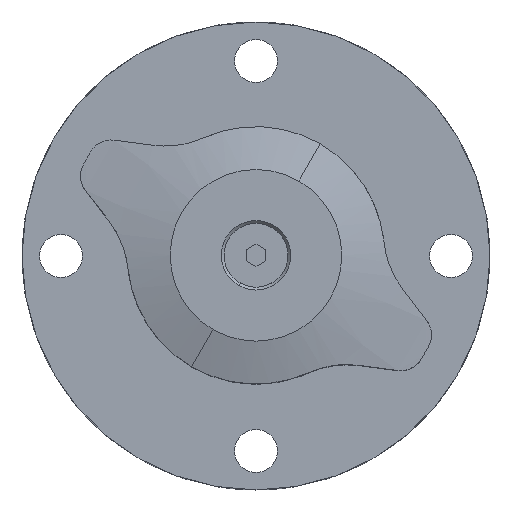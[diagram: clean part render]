
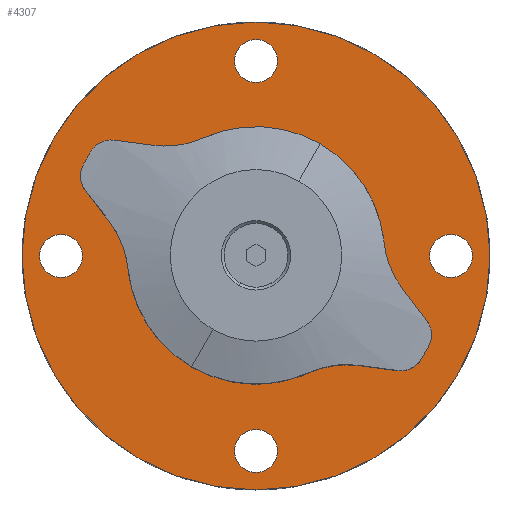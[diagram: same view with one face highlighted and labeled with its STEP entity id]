
A CAD part, top view. The second image highlights one B-rep face of the part: STEP entity #4307.
In plain terms, the highlighted planar face has unit normal (0, 0, 1) as drawn and (0, 0, -1) by its records, which use the part's own axes.
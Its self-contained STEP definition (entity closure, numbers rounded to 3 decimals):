
#18 = AXIS2_PLACEMENT_3D ( 'NONE', #767, #3589, #1552 ) ;
#28 = ORIENTED_EDGE ( 'NONE', *, *, #4676, .T. ) ;
#53 = EDGE_CURVE ( 'NONE', #120, #1119, #1252, .T. ) ;
#79 = EDGE_LOOP ( 'NONE', ( #4017, #4666 ) ) ;
#120 = VERTEX_POINT ( 'NONE', #4764 ) ;
#130 = CARTESIAN_POINT ( 'NONE',  ( 0., -25., -7.5 ) ) ;
#252 = DIRECTION ( 'NONE',  ( -1., 0., 0. ) ) ;
#405 = DIRECTION ( 'NONE',  ( 0., 0., -1. ) ) ;
#590 = CARTESIAN_POINT ( 'NONE',  ( 14., 0., -7.5 ) ) ;
#596 = EDGE_LOOP ( 'NONE', ( #2909, #28 ) ) ;
#641 = CIRCLE ( 'NONE', #730, 14. ) ;
#660 = CARTESIAN_POINT ( 'NONE',  ( 0., 0., -7.5 ) ) ;
#671 = DIRECTION ( 'NONE',  ( 0., 1., 0. ) ) ;
#684 = CARTESIAN_POINT ( 'NONE',  ( 30., 0., -7.5 ) ) ;
#730 = AXIS2_PLACEMENT_3D ( 'NONE', #4317, #405, #3229 ) ;
#752 = CARTESIAN_POINT ( 'NONE',  ( 0., 25., -7.5 ) ) ;
#757 = DIRECTION ( 'NONE',  ( 0., 0., 1. ) ) ;
#767 = CARTESIAN_POINT ( 'NONE',  ( 0., 0., -7.5 ) ) ;
#835 = EDGE_CURVE ( 'NONE', #1119, #120, #1101, .T. ) ;
#847 = ORIENTED_EDGE ( 'NONE', *, *, #53, .T. ) ;
#855 = CIRCLE ( 'NONE', #18, 30. ) ;
#869 = CARTESIAN_POINT ( 'NONE',  ( 0., 27.75, -7.5 ) ) ;
#957 = FACE_BOUND ( 'NONE', #596, .T. ) ;
#972 = CARTESIAN_POINT ( 'NONE',  ( 22.25, 0., -7.5 ) ) ;
#981 = FACE_BOUND ( 'NONE', #4710, .T. ) ;
#998 = VERTEX_POINT ( 'NONE', #4633 ) ;
#1012 = VERTEX_POINT ( 'NONE', #590 ) ;
#1023 = EDGE_CURVE ( 'NONE', #1913, #4984, #2356, .T. ) ;
#1033 = DIRECTION ( 'NONE',  ( 0., 0., 1. ) ) ;
#1101 = CIRCLE ( 'NONE', #4529, 2.75 ) ;
#1119 = VERTEX_POINT ( 'NONE', #5154 ) ;
#1191 = CARTESIAN_POINT ( 'NONE',  ( 25., 0., -7.5 ) ) ;
#1233 = CARTESIAN_POINT ( 'NONE',  ( 0., 0., -7.5 ) ) ;
#1248 = CIRCLE ( 'NONE', #4098, 2.75 ) ;
#1252 = CIRCLE ( 'NONE', #2177, 2.75 ) ;
#1255 = DIRECTION ( 'NONE',  ( 0., 0., -1. ) ) ;
#1266 = CIRCLE ( 'NONE', #2108, 2.75 ) ;
#1300 = AXIS2_PLACEMENT_3D ( 'NONE', #660, #4551, #4944 ) ;
#1445 = EDGE_CURVE ( 'NONE', #4811, #4933, #5121, .T. ) ;
#1462 = ORIENTED_EDGE ( 'NONE', *, *, #2764, .F. ) ;
#1465 = EDGE_LOOP ( 'NONE', ( #2067, #3034 ) ) ;
#1482 = CARTESIAN_POINT ( 'NONE',  ( 30., 0., -7.5 ) ) ;
#1552 = DIRECTION ( 'NONE',  ( 1., 0., 0. ) ) ;
#1780 = DIRECTION ( 'NONE',  ( 0., -1., 0. ) ) ;
#1811 = EDGE_CURVE ( 'NONE', #2803, #998, #1266, .T. ) ;
#1850 = EDGE_CURVE ( 'NONE', #5042, #5147, #855, .T. ) ;
#1913 = VERTEX_POINT ( 'NONE', #869 ) ;
#2067 = ORIENTED_EDGE ( 'NONE', *, *, #4694, .T. ) ;
#2085 = DIRECTION ( 'NONE',  ( 0., 0., 1. ) ) ;
#2108 = AXIS2_PLACEMENT_3D ( 'NONE', #2783, #5123, #2318 ) ;
#2173 = EDGE_LOOP ( 'NONE', ( #3101, #1462 ) ) ;
#2177 = AXIS2_PLACEMENT_3D ( 'NONE', #2384, #757, #4374 ) ;
#2180 = VERTEX_POINT ( 'NONE', #3212 ) ;
#2184 = EDGE_LOOP ( 'NONE', ( #3019, #3531 ) ) ;
#2194 = FACE_BOUND ( 'NONE', #2184, .T. ) ;
#2261 = EDGE_CURVE ( 'NONE', #4984, #1913, #1248, .T. ) ;
#2318 = DIRECTION ( 'NONE',  ( -1., 0., 0. ) ) ;
#2356 = CIRCLE ( 'NONE', #4700, 2.75 ) ;
#2384 = CARTESIAN_POINT ( 'NONE',  ( 0., -25., -7.5 ) ) ;
#2476 = CIRCLE ( 'NONE', #3485, 2.75 ) ;
#2534 = FACE_BOUND ( 'NONE', #79, .T. ) ;
#2590 = ORIENTED_EDGE ( 'NONE', *, *, #835, .T. ) ;
#2764 = EDGE_CURVE ( 'NONE', #1012, #2180, #641, .T. ) ;
#2769 = DIRECTION ( 'NONE',  ( 1., 0., 0. ) ) ;
#2783 = CARTESIAN_POINT ( 'NONE',  ( -25., 0., -7.5 ) ) ;
#2787 = DIRECTION ( 'NONE',  ( 1., 0., 0. ) ) ;
#2803 = VERTEX_POINT ( 'NONE', #3753 ) ;
#2909 = ORIENTED_EDGE ( 'NONE', *, *, #1811, .T. ) ;
#2952 = CARTESIAN_POINT ( 'NONE',  ( -25., 0., -7.5 ) ) ;
#3019 = ORIENTED_EDGE ( 'NONE', *, *, #1445, .T. ) ;
#3034 = ORIENTED_EDGE ( 'NONE', *, *, #1850, .T. ) ;
#3062 = CARTESIAN_POINT ( 'NONE',  ( 0., 25., -7.5 ) ) ;
#3079 = CIRCLE ( 'NONE', #3744, 14. ) ;
#3101 = ORIENTED_EDGE ( 'NONE', *, *, #3260, .F. ) ;
#3139 = CARTESIAN_POINT ( 'NONE',  ( 25., 0., -7.5 ) ) ;
#3140 = DIRECTION ( 'NONE',  ( 0., 1., 0. ) ) ;
#3148 = CARTESIAN_POINT ( 'NONE',  ( -30., 0., -7.5 ) ) ;
#3212 = CARTESIAN_POINT ( 'NONE',  ( -14., 0., -7.5 ) ) ;
#3229 = DIRECTION ( 'NONE',  ( -1., 0., 0. ) ) ;
#3246 = DIRECTION ( 'NONE',  ( -1., 0., 0. ) ) ;
#3260 = EDGE_CURVE ( 'NONE', #2180, #1012, #3079, .T. ) ;
#3485 = AXIS2_PLACEMENT_3D ( 'NONE', #2952, #1033, #252 ) ;
#3499 = FACE_OUTER_BOUND ( 'NONE', #1465, .T. ) ;
#3531 = ORIENTED_EDGE ( 'NONE', *, *, #3954, .T. ) ;
#3573 = DIRECTION ( 'NONE',  ( 0., 0., 1. ) ) ;
#3589 = DIRECTION ( 'NONE',  ( 0., 0., -1. ) ) ;
#3744 = AXIS2_PLACEMENT_3D ( 'NONE', #1233, #1255, #3246 ) ;
#3753 = CARTESIAN_POINT ( 'NONE',  ( -27.75, 0., -7.5 ) ) ;
#3814 = CIRCLE ( 'NONE', #1300, 30. ) ;
#3888 = DIRECTION ( 'NONE',  ( 0., 0., 1. ) ) ;
#3954 = EDGE_CURVE ( 'NONE', #4933, #4811, #4399, .T. ) ;
#3974 = DIRECTION ( 'NONE',  ( 1., 0., 0. ) ) ;
#4017 = ORIENTED_EDGE ( 'NONE', *, *, #1023, .T. ) ;
#4062 = AXIS2_PLACEMENT_3D ( 'NONE', #1482, #3888, #3974 ) ;
#4098 = AXIS2_PLACEMENT_3D ( 'NONE', #752, #4834, #3140 ) ;
#4307 = ADVANCED_FACE ( 'NONE', ( #4574, #2534, #957, #981, #2194, #3499 ), #5098, .F. ) ;
#4317 = CARTESIAN_POINT ( 'NONE',  ( 0., 0., -7.5 ) ) ;
#4361 = AXIS2_PLACEMENT_3D ( 'NONE', #1191, #3573, #2787 ) ;
#4374 = DIRECTION ( 'NONE',  ( 0., -1., 0. ) ) ;
#4381 = CARTESIAN_POINT ( 'NONE',  ( 27.75, 0., -7.5 ) ) ;
#4399 = CIRCLE ( 'NONE', #4981, 2.75 ) ;
#4483 = CARTESIAN_POINT ( 'NONE',  ( 0., 22.25, -7.5 ) ) ;
#4529 = AXIS2_PLACEMENT_3D ( 'NONE', #130, #2085, #1780 ) ;
#4551 = DIRECTION ( 'NONE',  ( 0., 0., -1. ) ) ;
#4574 = FACE_BOUND ( 'NONE', #2173, .T. ) ;
#4633 = CARTESIAN_POINT ( 'NONE',  ( -22.25, 0., -7.5 ) ) ;
#4660 = DIRECTION ( 'NONE',  ( 0., 0., 1. ) ) ;
#4666 = ORIENTED_EDGE ( 'NONE', *, *, #2261, .T. ) ;
#4676 = EDGE_CURVE ( 'NONE', #998, #2803, #2476, .T. ) ;
#4694 = EDGE_CURVE ( 'NONE', #5147, #5042, #3814, .T. ) ;
#4700 = AXIS2_PLACEMENT_3D ( 'NONE', #3062, #4660, #671 ) ;
#4710 = EDGE_LOOP ( 'NONE', ( #847, #2590 ) ) ;
#4736 = DIRECTION ( 'NONE',  ( 0., 0., 1. ) ) ;
#4764 = CARTESIAN_POINT ( 'NONE',  ( 0., -27.75, -7.5 ) ) ;
#4811 = VERTEX_POINT ( 'NONE', #4381 ) ;
#4834 = DIRECTION ( 'NONE',  ( 0., 0., 1. ) ) ;
#4933 = VERTEX_POINT ( 'NONE', #972 ) ;
#4944 = DIRECTION ( 'NONE',  ( 1., 0., 0. ) ) ;
#4981 = AXIS2_PLACEMENT_3D ( 'NONE', #3139, #4736, #2769 ) ;
#4984 = VERTEX_POINT ( 'NONE', #4483 ) ;
#5042 = VERTEX_POINT ( 'NONE', #684 ) ;
#5098 = PLANE ( 'NONE',  #4062 ) ;
#5121 = CIRCLE ( 'NONE', #4361, 2.75 ) ;
#5123 = DIRECTION ( 'NONE',  ( 0., 0., 1. ) ) ;
#5147 = VERTEX_POINT ( 'NONE', #3148 ) ;
#5154 = CARTESIAN_POINT ( 'NONE',  ( 0., -22.25, -7.5 ) ) ;
